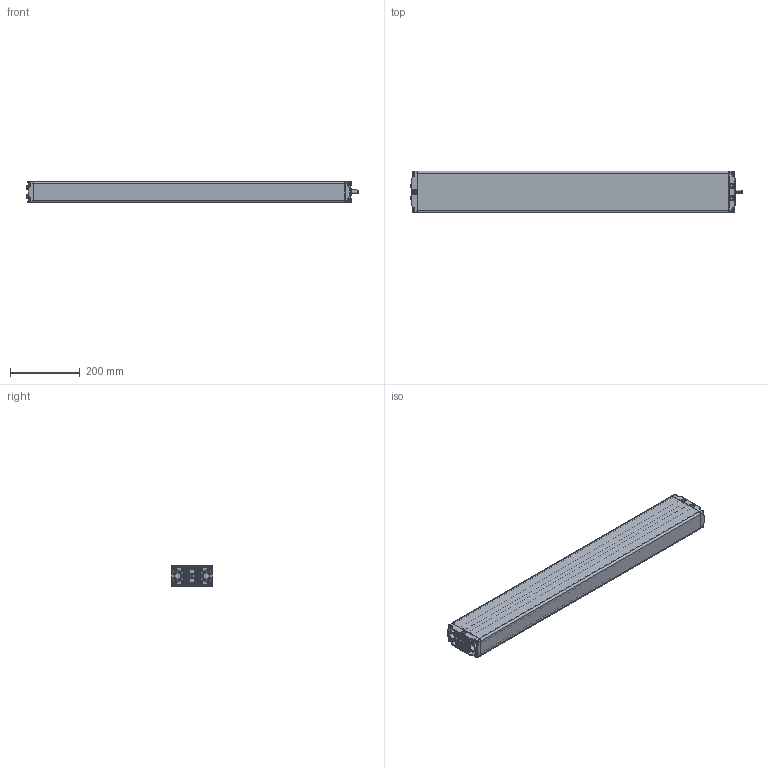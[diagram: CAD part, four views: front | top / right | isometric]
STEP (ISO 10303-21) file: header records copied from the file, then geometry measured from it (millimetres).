
FILE_DESCRIPTION(/* description */ ('Unknown'),/* implementation_level */ '2;1');
FILE_NAME(/* name */ '102.00157 Pumpe PB 4440 W',/* time_stamp */ '2016-09-02T11:25:27+02:00',/* author */ ('Unknown'),/* organization */ ('Unknown'),/* preprocessor_version */ 'ST-DEVELOPER v16.7',/* originating_system */ 'DEX',/* authorisation */ $);
FILE_SCHEMA (('AUTOMOTIVE_DESIGN {1 0 10303 214 3 1 1}'));
Products named in the file (14): 102.00157; 115.00027; 125.00044; 115.00007; 142.00021; 125.00021; 142.00013; 125.00147; 115.00140; 126.00006; 122.00040; 119.00047; 126.00005; 142.00057
Assembly tree (23 placements, depth 3):
  102.00157
    115.00027  x4
      125.00044
      115.00007
      142.00021
      125.00021
    142.00013  x8
    125.00147
    115.00140
      126.00006
      122.00040
    119.00047
    126.00005
    142.00057
Bounding box: 951.97 x 120 x 60.3 mm (x, y, z)
Volume: 1096318.9 mm3; surface area: 768981.3 mm2
Topology: 26 solids, 26 shells, 2494 faces, 5921 edges, 3404 vertices
Faces by surface type: bspline 704, plane 659, cylinder 554, cone 347, torus 172, sphere 58
Full cylindrical faces by diameter (mm): 3.5 x4, 4.1 x4, 4.2 x4, 5 x8, 6.917 x8, 8 x9, 9.8 x8, 10 x3, 10.4 x5, 13.9 x8, 14 x1, 17.3 x4, 18 x1, 19 x1
Entity records: 97534 total; most frequent: CARTESIAN_POINT 54063, ORIENTED_EDGE 8234, DIRECTION 6551, EDGE_CURVE 4117, AXIS2_PLACEMENT_3D 2633, VERTEX_POINT 2519, FACE_BOUND 1980, EDGE_LOOP 1979
